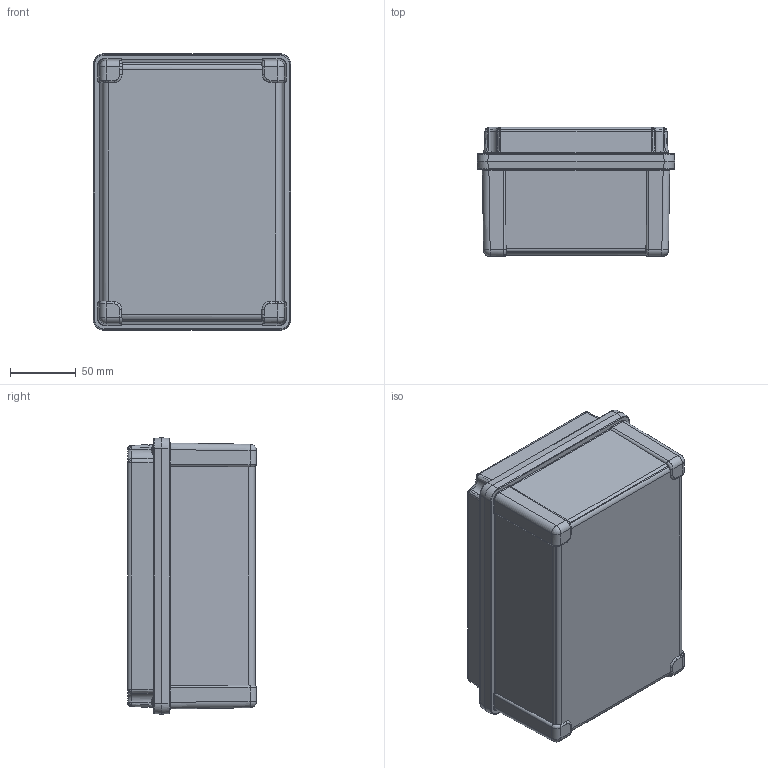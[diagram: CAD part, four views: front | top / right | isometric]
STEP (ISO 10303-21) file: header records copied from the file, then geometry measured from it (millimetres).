
FILE_DESCRIPTION((''),'2;1');
FILE_NAME('BOX200X140X90','2022-09-13T11:30:40',('pc'),(''),'CREO PARAMETRIC BY PTC INC, 2018100','CREO PARAMETRIC BY PTC INC, 2018100','');
FILE_SCHEMA(('CONFIG_CONTROL_DESIGN'));
Length unit declared in the file: millimetre
Products named in the file (7): BOX200X140X90-BOX; BOX200X140X90-JUNTA; BOX200X140X90-PLACA; PARKER-6X0_5; BOX200X140X90-TAPA; PARKER-6X0_625; BOX200X140X90
Assembly tree (12 placements, depth 2):
  BOX200X140X90
    BOX200X140X90-BOX
    BOX200X140X90-JUNTA
    BOX200X140X90-PLACA
    PARKER-6X0_5  x4
    BOX200X140X90-TAPA
    PARKER-6X0_625  x4
Bounding box: 150 x 98 x 210 mm (x, y, z)
Volume: 333903.5 mm3; surface area: 453552 mm2
Topology: 12 solids, 27 shells, 933 faces, 2418 edges, 1506 vertices
Faces by surface type: cylinder 304, plane 209, bspline 179, torus 121, cone 84, sphere 36
Entity records: 28413 total; most frequent: CARTESIAN_POINT 14657, ORIENTED_EDGE 2894, DIRECTION 2778, EDGE_CURVE 1488, AXIS2_PLACEMENT_3D 1143, VERTEX_POINT 945, CIRCLE 634, EDGE_LOOP 626
